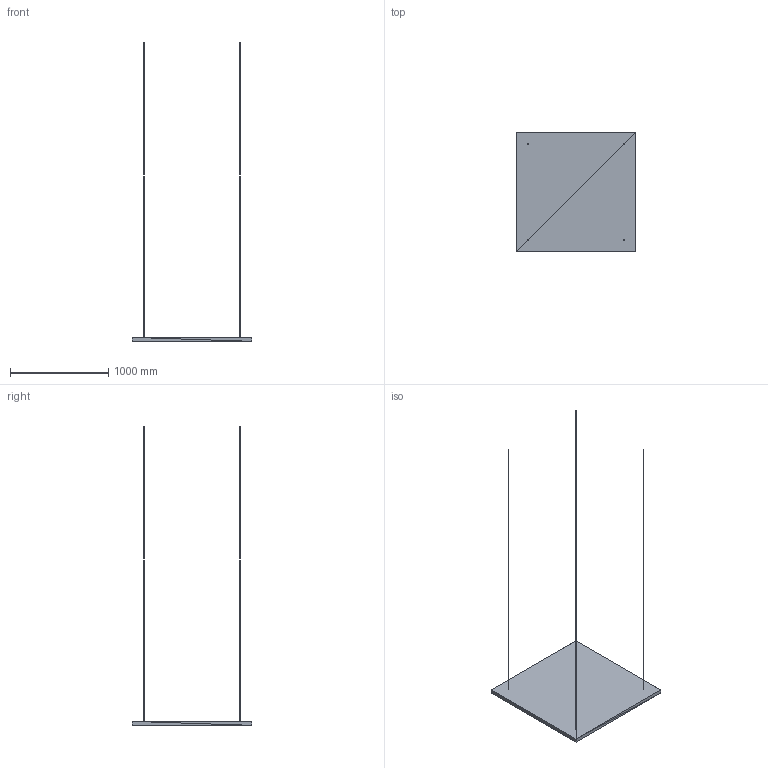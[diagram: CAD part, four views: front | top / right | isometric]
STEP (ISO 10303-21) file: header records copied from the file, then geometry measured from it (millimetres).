
FILE_DESCRIPTION(('ISINAC STEP AP214'),'2;1');
FILE_NAME('ISINAC_C.1220_40mm_COLGADO','2026-05-03T10:49:19',('ISINAC'),('www.isinac.com'),'ISINAC BIM Generator 1.0','','');
FILE_SCHEMA(('AUTOMOTIVE_DESIGN'));
Length unit declared in the file: millimetre
Products named in the file (1): ISINAC_C.1220_40mm_COLGADO
Bounding box: 1220 x 1220 x 3040 mm (x, y, z)
Surface area: 3280045.2 mm2 (no closed solid volume)
Topology: 0 solids, 92 shells, 92 faces, 276 edges, 276 vertices
Faces by surface type: plane 92
Entity records: 1025 total; most frequent: CARTESIAN_POINT 368, DIRECTION 184, POLY_LOOP 92, FACE_OUTER_BOUND 92, AXIS2_PLACEMENT_3D 92, PLANE 92, FACE_SURFACE 92, CLOSED_SHELL 1
